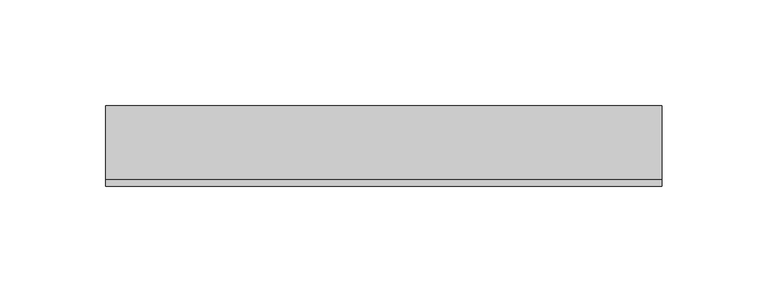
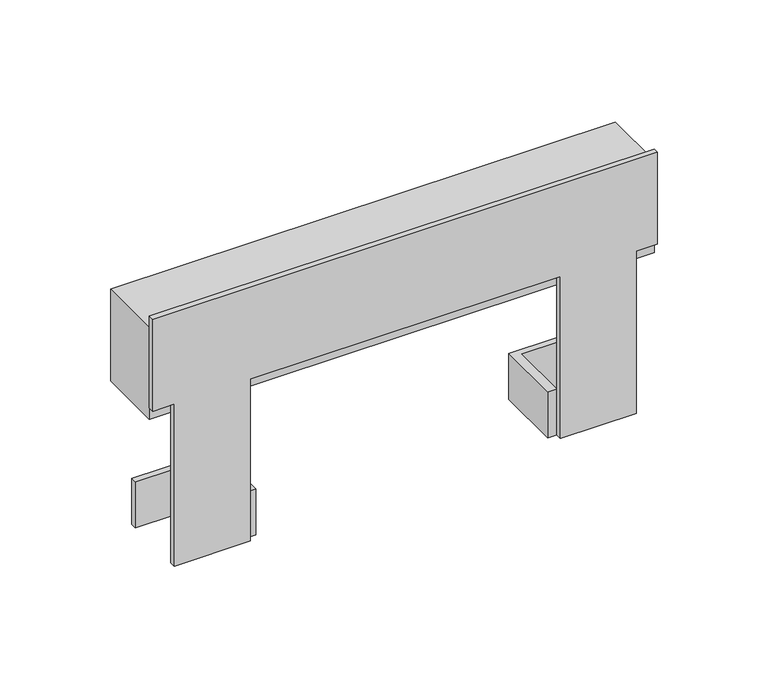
"""IFC4 building model written with IfcOpenShell, lengths in millimetres: furniture geometry, HermanMiller_Carts_CT778_ElectricalStrip4Outlet : 5H x 3D x 11W."""

from ifc_helpers import new_model, si_unit, frame, origin, place, context, project, spatial, polyline, outline, extrude, source, transform, mapped, element, save


def furniture_a84accc4(model_context):
    return source(origin(), model_context, "Body", "SweptSolid", [
        extrude(outline(polyline([(693.6194246, -156.2171686), (783.1544246, -156.2171686), (783.1544246, 5.7332314), (693.6194246, 5.7332314), (693.6194246, 45.4080314), (783.1544246, 45.4080314), (783.1544246, 56.5840314), (833.9544246, 56.5840314), (833.9544246, -207.0679686), (783.1544246, -207.0679686), (783.1544246, -195.8919686), (693.6194246, -195.8919686), (693.6194246, -156.2171686)])), frame((0.0, -38.1, 0.0), z_axis=(0.0, 1.0, 0.0), x_axis=(0.0, 0.0, 1.0)), (0.0, 0.0, 1.0), 3.0398622),
        extrude(outline(polyline([(56.5840314, 0.0), (56.5840314, -35.0601378), (-207.0679686, -35.0601378), (-207.0679686, 0.0), (56.5840314, 0.0)])), frame((0.0, 0.0, 776.8044246), z_axis=(0.0, 0.0, 1.0), x_axis=(1.0, 0.0, 0.0)), (0.0, 0.0, 1.0), 50.8),
        extrude(outline(polyline([(-151.4419686, 0.0), (-151.4419686, -35.0601378), (-156.2171686, -35.0601378), (-156.2171686, -3.175), (-195.8919686, -3.175), (-195.8919686, 0.0), (-151.4419686, 0.0)])), frame((0.0, 0.0, 693.6194246), z_axis=(0.0, 0.0, 1.0), x_axis=(1.0, 0.0, 0.0)), (0.0, 0.0, 1.0), 25.4),
        extrude(outline(polyline([(0.9580314, 0.0), (45.4080314, 0.0), (45.4080314, -3.175), (5.7332314, -3.175), (5.7332314, -35.0601378), (0.9580314, -35.0601378), (0.9580314, 0.0)])), frame((0.0, 0.0, 693.6194246), z_axis=(0.0, 0.0, 1.0), x_axis=(1.0, 0.0, 0.0)), (0.0, 0.0, 1.0), 25.4),
    ])


if __name__ == "__main__":
    model = new_model("IFC4")
    model_context = context("Model", 3, world=origin())
    ifc_project = project(units=[si_unit("LENGTHUNIT", "METRE", prefix="MILLI")], contexts=[model_context])
    site = spatial("IfcSite", under=ifc_project)
    building = spatial("IfcBuilding", under=site)
    placement = place(None, origin())
    furniture_shape = furniture_a84accc4(model_context)
    element("IfcFurniture", 1, ObjectType="HermanMiller_Carts_CT778_ElectricalStrip4Outlet : 5H x 3D x 11W", at=placement, inside=building, context=model_context, shape_type="MappedRepresentation", body=[
        mapped(furniture_shape, transform((0.0, 0.0, 0.0), x_axis=(1.0, 0.0, 0.0), y_axis=(0.0, 1.0, 0.0), z_axis=(0.0, 0.0, 1.0))),
    ])
    save(model, "model.ifc")
